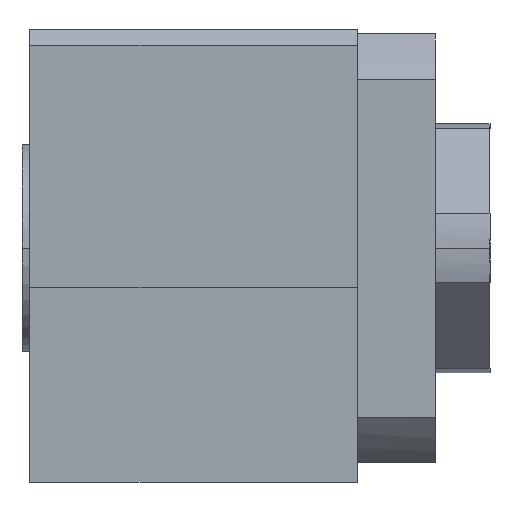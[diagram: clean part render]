
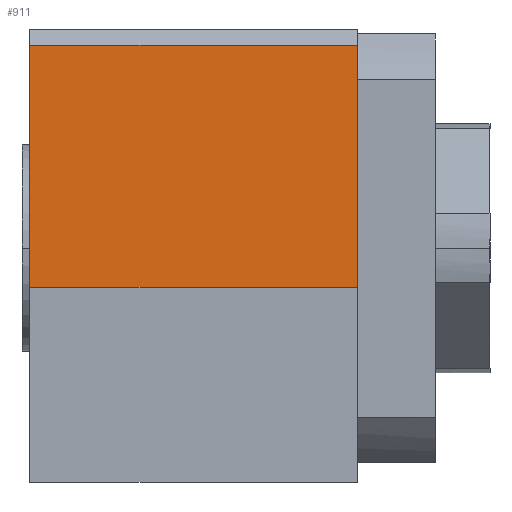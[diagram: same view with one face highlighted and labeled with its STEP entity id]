
A CAD part, front view. The second image highlights one B-rep face of the part: STEP entity #911.
In plain terms, the highlighted planar face has unit normal (0, -1, 0).
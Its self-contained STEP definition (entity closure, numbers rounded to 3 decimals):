
#718=CARTESIAN_POINT('Line Origine',(0.,-28.,10.5)) ;
#722=CARTESIAN_POINT('Vertex',(0.,-28.,26.)) ;
#724=CARTESIAN_POINT('Vertex',(0.,-28.,-5.)) ;
#881=CARTESIAN_POINT('Axis2P3D Location',(0.,-28.,-5.)) ;
#886=CARTESIAN_POINT('Line Origine',(-42.,-28.,10.5)) ;
#890=CARTESIAN_POINT('Vertex',(-42.,-28.,26.)) ;
#892=CARTESIAN_POINT('Vertex',(-42.,-28.,-5.)) ;
#895=CARTESIAN_POINT('Line Origine',(-21.,-28.,-5.)) ;
#900=CARTESIAN_POINT('Line Origine',(-21.,-28.,26.)) ;
#719=DIRECTION('Vector Direction',(0.,0.,1.)) ;
#882=DIRECTION('Axis2P3D Direction',(0.,-1.,0.)) ;
#883=DIRECTION('Axis2P3D XDirection',(0.,0.,1.)) ;
#887=DIRECTION('Vector Direction',(0.,0.,1.)) ;
#896=DIRECTION('Vector Direction',(-1.,0.,0.)) ;
#901=DIRECTION('Vector Direction',(-1.,0.,0.)) ;
#884=AXIS2_PLACEMENT_3D('Plane Axis2P3D',#881,#882,#883) ;
#906=ORIENTED_EDGE('',*,*,#894,.T.) ;
#907=ORIENTED_EDGE('',*,*,#899,.F.) ;
#908=ORIENTED_EDGE('',*,*,#726,.F.) ;
#909=ORIENTED_EDGE('',*,*,#904,.T.) ;
#720=VECTOR('Line Direction',#719,1.) ;
#888=VECTOR('Line Direction',#887,1.) ;
#897=VECTOR('Line Direction',#896,1.) ;
#902=VECTOR('Line Direction',#901,1.) ;
#911=ADVANCED_FACE('EK20(H)',(#910),#885,.T.) ;
#726=EDGE_CURVE('',#723,#725,#721,.F.) ;
#894=EDGE_CURVE('',#891,#893,#889,.F.) ;
#899=EDGE_CURVE('',#725,#893,#898,.T.) ;
#904=EDGE_CURVE('',#723,#891,#903,.T.) ;
#905=EDGE_LOOP('',(#906,#907,#908,#909)) ;
#910=FACE_OUTER_BOUND('',#905,.T.) ;
#721=LINE('Line',#718,#720) ;
#889=LINE('Line',#886,#888) ;
#898=LINE('Line',#895,#897) ;
#903=LINE('Line',#900,#902) ;
#885=PLANE('Plane',#884) ;
#723=VERTEX_POINT('',#722) ;
#725=VERTEX_POINT('',#724) ;
#891=VERTEX_POINT('',#890) ;
#893=VERTEX_POINT('',#892) ;
